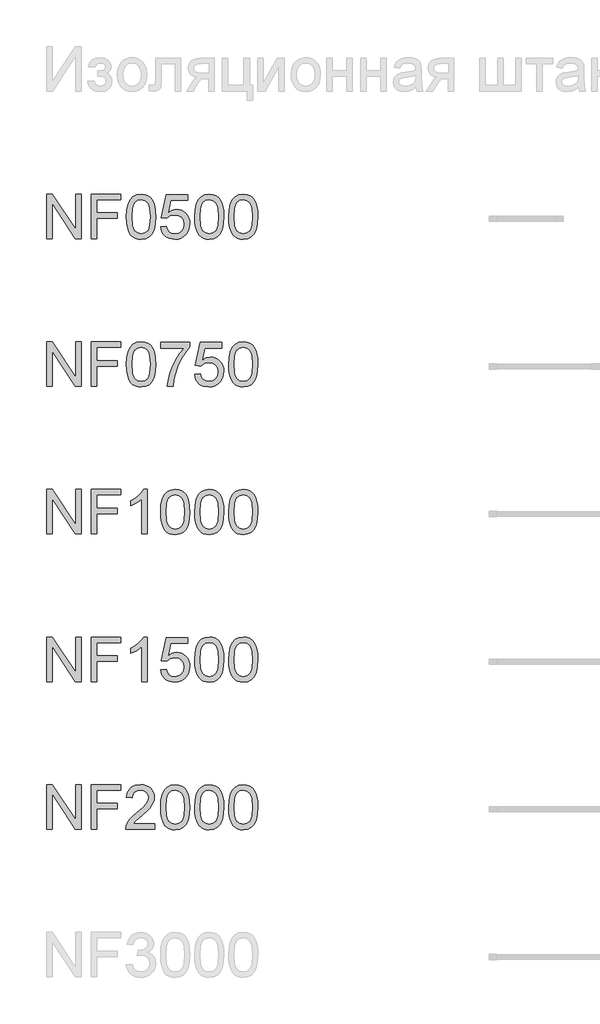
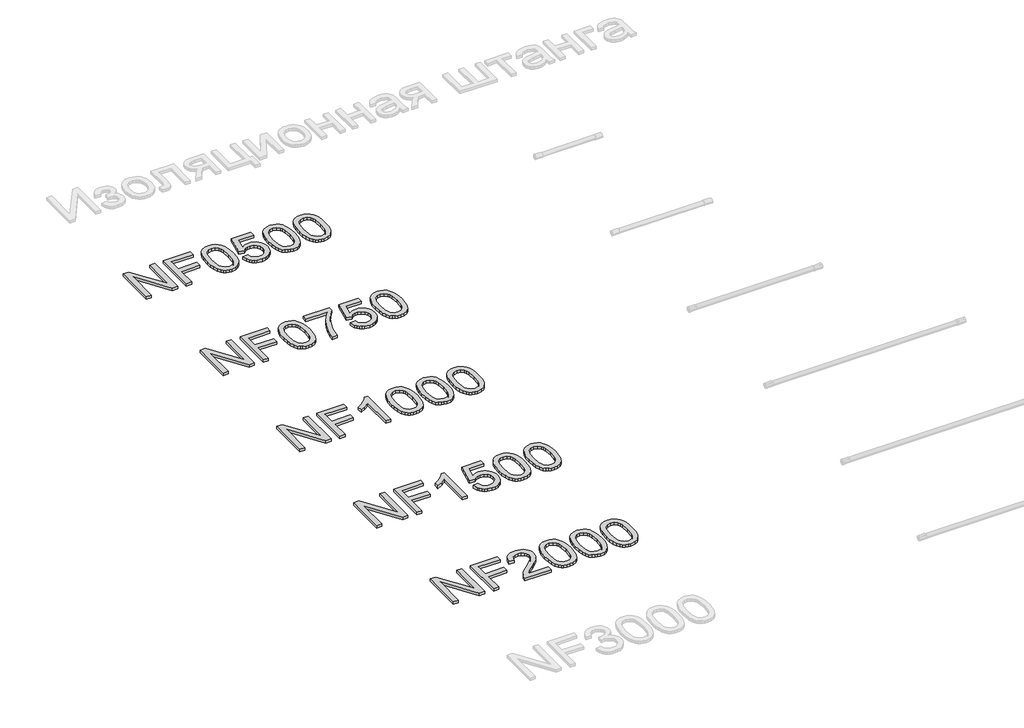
# One storey, part 23 of 124: 5 proxies.
"""IFC4 building model written with IfcOpenShell, lengths in millimetres."""

from ifc_helpers import new_model, si_unit, origin, origin_with_axes, place, context, project, spatial, polyline, outline, extrude, element, save

model = new_model("IFC4")

# Units and contexts
model_context = context("Model", 3, world=origin())
ifc_project = project(units=[si_unit("LENGTHUNIT", "METRE", prefix="MILLI")], contexts=[model_context])

# Site, building, storey
site = spatial("IfcSite", under=ifc_project)
building = spatial("IfcBuilding", under=site)
storey = spatial("IfcBuildingStorey", under=building, Name="Этаж 01", Elevation=0.0)

# Proxies
placement = place(None, origin())
element("IfcBuildingElementProxy", 1, Name="300", ObjectType="300", at=placement, inside=storey, context=model_context, shape_type="SweptSolid", body=[
    extrude(outline(polyline([(25399.8220677, -99548.8731539), (25399.8220677, -99247.5042234), (25440.1419344, -99247.5042234), (25597.5954283, -99486.2596383), (25597.5954283, -99247.5042234), (25635.2665446, -99247.5042234), (25635.2665446, -99548.8731539), (25594.9466779, -99548.8731539), (25437.493184, -99310.0441626), (25437.493184, -99548.8731539), (25399.8220677, -99548.8731539)])), origin_with_axes(), (0.0, 0.0, 1.0), 20.0),
    extrude(outline(polyline([(25701.1909981, -99548.8731539), (25701.1909981, -99247.5042234), (25903.6732483, -99247.5042234), (25903.6732483, -99285.1753397), (25738.8621144, -99285.1753397), (25738.8621144, -99374.644241), (25880.1288006, -99374.644241), (25880.1288006, -99412.3153573), (25738.8621144, -99412.3153573), (25738.8621144, -99548.8731539), (25701.1909981, -99548.8731539)])), origin_with_axes(), (0.0, 0.0, 1.0), 20.0),
    extrude(outline(polyline([(25941.3443646, -99400.6167098), (25944.1126766, -99352.3781832), (25952.4176126, -99313.9069236), (25966.1763993, -99284.6143197), (25985.306263, -99263.9117604), (26009.9451596, -99251.6061077), (26040.2310449, -99247.5042234), (26063.4443988, -99249.9322446), (26084.2297315, -99257.2163081), (26101.6121558, -99269.0713054), (26114.6167843, -99285.2121279), (26124.4392336, -99305.50082), (26132.2751201, -99329.7994258), (26137.4070739, -99360.6555281), (26139.1177252, -99400.6167098), (26136.3770043, -99448.579325), (26128.1548417, -99486.9586141), (26114.4788286, -99516.2788091), (26095.376556, -99537.0641418), (26070.682477, -99549.452568), (26040.2310449, -99553.5820434), (26019.4825004, -99551.7886187), (26001.0884006, -99546.4083445), (25985.0487456, -99537.4412209), (25971.3635354, -99524.8872478), (25958.2301482, -99502.1935272), (25948.8491573, -99473.9171974), (25943.2205628, -99440.0582582), (25941.3443646, -99400.6167098)]), holes=[polyline([(25979.0154809, -99400.5431334), (25983.4300648, -99459.7997258), (25988.9482948, -99480.0677245), (25996.6738167, -99494.0955248), (26016.3922916, -99510.4570765), (26040.2310449, -99515.9109271), (26064.0697982, -99510.4386824), (26083.7882731, -99494.0219484), (26091.513795, -99479.9711555), (26097.032025, -99459.7077553), (26101.4466089, -99400.5431334), (26097.1791778, -99342.6201133), (26091.8448888, -99322.4187932), (26084.3768843, -99308.0575998), (26064.6951976, -99290.8959048), (26039.7895865, -99285.1753397), (26016.2083506, -99290.2153231), (25997.2624279, -99305.3352731), (25989.2793886, -99320.9702579), (25983.5772176, -99342.0498962), (25979.0154809, -99400.5431334)])]), origin_with_axes(), (0.0, 0.0, 1.0), 20.0),
    extrude(outline(polyline([(26172.079952, -99468.8220317), (26209.7510683, -99464.1131422), (26216.6672498, -99486.7286879), (26228.7337792, -99502.9246927), (26245.8954743, -99512.6643685), (26268.0971527, -99515.9109271), (26295.0996912, -99511.3951756), (26315.3332009, -99497.8479212), (26327.9699474, -99476.8326622), (26332.1821963, -99449.9128972), (26328.2366619, -99424.5658277), (26316.4000587, -99405.1784466), (26296.5804162, -99392.8727938), (26268.6857639, -99388.7709096), (26250.4112258, -99390.4079845), (26235.6131725, -99395.3192091), (26214.4599578, -99412.3153573), (26176.7888415, -99407.6064677), (26209.7510683, -99252.213113), (26355.726644, -99252.213113), (26355.726644, -99289.8842293), (26240.2116975, -99289.8842293), (26224.0984661, -99372.8784074), (26251.009034, -99356.5444468), (26279.207189, -99351.0997933), (26297.5530042, -99352.7874519), (26314.4042989, -99357.8504279), (26329.7610729, -99366.2887212), (26343.6233263, -99378.1023317), (26355.0989453, -99392.5692912), (26363.295816, -99408.9676311), (26368.2139384, -99427.2973515), (26369.8533126, -99447.5584524), (26363.9488066, -99485.2295687), (26356.568174, -99502.0233818), (26346.2352885, -99517.4560315), (26330.5819096, -99533.2611617), (26312.3165685, -99544.5505404), (26291.4392653, -99551.3241677), (26267.9499999, -99553.5820434), (26230.9502682, -99547.7787049), (26215.2715975, -99540.5245319), (26201.4737234, -99530.3686895), (26189.9935059, -99517.8170157), (26181.2678048, -99503.3753481), (26172.079952, -99468.8220317)])), origin_with_axes(), (0.0, 0.0, 1.0), 20.0),
    extrude(outline(polyline([(26402.8155393, -99400.6167098), (26405.5838514, -99352.3781832), (26413.8887874, -99313.9069236), (26427.647574, -99284.6143197), (26446.7774378, -99263.9117604), (26471.4163344, -99251.6061077), (26501.7022196, -99247.5042234), (26524.9155735, -99249.9322446), (26545.7009063, -99257.2163081), (26563.0833305, -99269.0713054), (26576.0879591, -99285.2121279), (26585.9104083, -99305.50082), (26593.7462948, -99329.7994258), (26598.8782487, -99360.6555281), (26600.5889, -99400.6167098), (26597.8481791, -99448.579325), (26589.6260165, -99486.9586141), (26575.9500033, -99516.2788091), (26556.8477307, -99537.0641418), (26532.1536518, -99549.452568), (26501.7022196, -99553.5820434), (26480.9536751, -99551.7886187), (26462.5595754, -99546.4083445), (26446.5199204, -99537.4412209), (26432.8347102, -99524.8872478), (26419.7013229, -99502.1935272), (26410.320332, -99473.9171974), (26404.6917375, -99440.0582582), (26402.8155393, -99400.6167098)]), holes=[polyline([(26440.4866556, -99400.5431334), (26444.9012396, -99459.7997258), (26450.4194695, -99480.0677245), (26458.1449914, -99494.0955248), (26477.8634664, -99510.4570765), (26501.7022196, -99515.9109271), (26525.5409729, -99510.4386824), (26545.2594479, -99494.0219484), (26552.9849698, -99479.9711555), (26558.5031997, -99459.7077553), (26562.9177836, -99400.5431334), (26558.6503525, -99342.6201133), (26553.3160636, -99322.4187932), (26545.8480591, -99308.0575998), (26526.1663723, -99290.8959048), (26501.2607613, -99285.1753397), (26477.6795254, -99290.2153231), (26458.7336026, -99305.3352731), (26450.7505633, -99320.9702579), (26445.0483924, -99342.0498962), (26440.4866556, -99400.5431334)])]), origin_with_axes(), (0.0, 0.0, 1.0), 20.0),
    extrude(outline(polyline([(26633.5511267, -99400.6167098), (26636.3194387, -99352.3781832), (26644.6243748, -99313.9069236), (26658.3831614, -99284.6143197), (26677.5130251, -99263.9117604), (26702.1519218, -99251.6061077), (26732.437807, -99247.5042234), (26755.6511609, -99249.9322446), (26776.4364936, -99257.2163081), (26793.8189179, -99269.0713054), (26806.8235464, -99285.2121279), (26816.6459957, -99305.50082), (26824.4818822, -99329.7994258), (26829.613836, -99360.6555281), (26831.3244873, -99400.6167098), (26828.5837665, -99448.579325), (26820.3616039, -99486.9586141), (26806.6855907, -99516.2788091), (26787.5833181, -99537.0641418), (26762.8892392, -99549.452568), (26732.437807, -99553.5820434), (26711.6892625, -99551.7886187), (26693.2951627, -99546.4083445), (26677.2555077, -99537.4412209), (26663.5702975, -99524.8872478), (26650.4369103, -99502.1935272), (26641.0559194, -99473.9171974), (26635.4273249, -99440.0582582), (26633.5511267, -99400.6167098)]), holes=[polyline([(26671.222243, -99400.5431334), (26675.636827, -99459.7997258), (26681.1550569, -99480.0677245), (26688.8805788, -99494.0955248), (26708.5990537, -99510.4570765), (26732.437807, -99515.9109271), (26756.2765603, -99510.4386824), (26775.9950353, -99494.0219484), (26783.7205571, -99479.9711555), (26789.2387871, -99459.7077553), (26793.653371, -99400.5431334), (26789.3859399, -99342.6201133), (26784.0516509, -99322.4187932), (26776.5836464, -99308.0575998), (26756.9019597, -99290.8959048), (26731.9963486, -99285.1753397), (26708.4151127, -99290.2153231), (26689.46919, -99305.3352731), (26681.4861507, -99320.9702579), (26675.7839798, -99342.0498962), (26671.222243, -99400.5431334)])]), origin_with_axes(), (0.0, 0.0, 1.0), 20.0),
])
element("IfcBuildingElementProxy", 2, Name="300", ObjectType="300", at=placement, inside=storey, context=model_context, shape_type="SweptSolid", body=[
    extrude(outline(polyline([(25399.8220677, -100548.8731539), (25399.8220677, -100247.5042234), (25440.1419344, -100247.5042234), (25597.5954283, -100486.2596383), (25597.5954283, -100247.5042234), (25635.2665446, -100247.5042234), (25635.2665446, -100548.8731539), (25594.9466779, -100548.8731539), (25437.493184, -100310.0441626), (25437.493184, -100548.8731539), (25399.8220677, -100548.8731539)])), origin_with_axes(), (0.0, 0.0, 1.0), 20.0),
    extrude(outline(polyline([(25701.1909981, -100548.8731539), (25701.1909981, -100247.5042234), (25903.6732483, -100247.5042234), (25903.6732483, -100285.1753397), (25738.8621144, -100285.1753397), (25738.8621144, -100374.644241), (25880.1288006, -100374.644241), (25880.1288006, -100412.3153573), (25738.8621144, -100412.3153573), (25738.8621144, -100548.8731539), (25701.1909981, -100548.8731539)])), origin_with_axes(), (0.0, 0.0, 1.0), 20.0),
    extrude(outline(polyline([(25941.3443646, -100400.6167098), (25944.1126766, -100352.3781832), (25952.4176126, -100313.9069236), (25966.1763993, -100284.6143197), (25985.306263, -100263.9117604), (26009.9451596, -100251.6061077), (26040.2310449, -100247.5042234), (26063.4443988, -100249.9322446), (26084.2297315, -100257.2163081), (26101.6121558, -100269.0713054), (26114.6167843, -100285.2121279), (26124.4392336, -100305.50082), (26132.2751201, -100329.7994258), (26137.4070739, -100360.6555281), (26139.1177252, -100400.6167098), (26136.3770043, -100448.579325), (26128.1548417, -100486.9586141), (26114.4788286, -100516.2788091), (26095.376556, -100537.0641418), (26070.682477, -100549.452568), (26040.2310449, -100553.5820434), (26019.4825004, -100551.7886187), (26001.0884006, -100546.4083445), (25985.0487456, -100537.4412209), (25971.3635354, -100524.8872478), (25958.2301482, -100502.1935272), (25948.8491573, -100473.9171974), (25943.2205628, -100440.0582582), (25941.3443646, -100400.6167098)]), holes=[polyline([(25979.0154809, -100400.5431334), (25983.4300648, -100459.7997258), (25988.9482948, -100480.0677245), (25996.6738167, -100494.0955248), (26016.3922916, -100510.4570765), (26040.2310449, -100515.9109271), (26064.0697982, -100510.4386824), (26083.7882731, -100494.0219484), (26091.513795, -100479.9711555), (26097.032025, -100459.7077553), (26101.4466089, -100400.5431334), (26097.1791778, -100342.6201133), (26091.8448888, -100322.4187932), (26084.3768843, -100308.0575998), (26064.6951976, -100290.8959048), (26039.7895865, -100285.1753397), (26016.2083506, -100290.2153231), (25997.2624279, -100305.3352731), (25989.2793886, -100320.9702579), (25983.5772176, -100342.0498962), (25979.0154809, -100400.5431334)])]), origin_with_axes(), (0.0, 0.0, 1.0), 20.0),
    extrude(outline(polyline([(26172.079952, -100289.8842293), (26172.079952, -100252.213113), (26369.8533126, -100252.213113), (26369.8533126, -100282.6737422), (26341.6643547, -100318.3490987), (26313.7513083, -100363.7181457), (26289.1308058, -100414.6422109), (26270.8194795, -100466.9826218), (26261.8431588, -100506.1436601), (26256.8399637, -100548.8731539), (26219.1688474, -100548.8731539), (26223.2431404, -100510.0432093), (26234.1416446, -100463.892413), (26251.5700541, -100414.9733047), (26275.2340634, -100367.8384241), (26302.8620013, -100325.228492), (26332.1821963, -100289.8842293), (26172.079952, -100289.8842293)])), origin_with_axes(), (0.0, 0.0, 1.0), 20.0),
    extrude(outline(polyline([(26402.8155393, -100468.8220317), (26440.4866556, -100464.1131422), (26447.4028372, -100486.7286879), (26459.4693666, -100502.9246927), (26476.6310617, -100512.6643685), (26498.8327401, -100515.9109271), (26525.8352785, -100511.3951756), (26546.0687883, -100497.8479212), (26558.7055348, -100476.8326622), (26562.9177836, -100449.9128972), (26558.9722492, -100424.5658277), (26547.1356461, -100405.1784466), (26527.3160036, -100392.8727938), (26499.4213513, -100388.7709096), (26481.1468132, -100390.4079845), (26466.3487599, -100395.3192091), (26445.1955452, -100412.3153573), (26407.5244289, -100407.6064677), (26440.4866556, -100252.213113), (26586.4622313, -100252.213113), (26586.4622313, -100289.8842293), (26470.9472849, -100289.8842293), (26454.8340535, -100372.8784074), (26481.7446214, -100356.5444468), (26509.9427763, -100351.0997933), (26528.2885916, -100352.7874519), (26545.1398862, -100357.8504279), (26560.4966603, -100366.2887212), (26574.3589137, -100378.1023317), (26585.8345327, -100392.5692912), (26594.0314034, -100408.9676311), (26598.9495258, -100427.2973515), (26600.5889, -100447.5584524), (26594.6843939, -100485.2295687), (26587.3037614, -100502.0233818), (26576.9708759, -100517.4560315), (26561.317497, -100533.2611617), (26543.0521559, -100544.5505404), (26522.1748527, -100551.3241677), (26498.6855873, -100553.5820434), (26461.6858556, -100547.7787049), (26446.0071848, -100540.5245319), (26432.2093108, -100530.3686895), (26420.7290932, -100517.8170157), (26412.0033922, -100503.3753481), (26402.8155393, -100468.8220317)])), origin_with_axes(), (0.0, 0.0, 1.0), 20.0),
    extrude(outline(polyline([(26633.5511267, -100400.6167098), (26636.3194387, -100352.3781832), (26644.6243748, -100313.9069236), (26658.3831614, -100284.6143197), (26677.5130251, -100263.9117604), (26702.1519218, -100251.6061077), (26732.437807, -100247.5042234), (26755.6511609, -100249.9322446), (26776.4364936, -100257.2163081), (26793.8189179, -100269.0713054), (26806.8235464, -100285.2121279), (26816.6459957, -100305.50082), (26824.4818822, -100329.7994258), (26829.613836, -100360.6555281), (26831.3244873, -100400.6167098), (26828.5837665, -100448.579325), (26820.3616039, -100486.9586141), (26806.6855907, -100516.2788091), (26787.5833181, -100537.0641418), (26762.8892392, -100549.452568), (26732.437807, -100553.5820434), (26711.6892625, -100551.7886187), (26693.2951627, -100546.4083445), (26677.2555077, -100537.4412209), (26663.5702975, -100524.8872478), (26650.4369103, -100502.1935272), (26641.0559194, -100473.9171974), (26635.4273249, -100440.0582582), (26633.5511267, -100400.6167098)]), holes=[polyline([(26671.222243, -100400.5431334), (26675.636827, -100459.7997258), (26681.1550569, -100480.0677245), (26688.8805788, -100494.0955248), (26708.5990537, -100510.4570765), (26732.437807, -100515.9109271), (26756.2765603, -100510.4386824), (26775.9950353, -100494.0219484), (26783.7205571, -100479.9711555), (26789.2387871, -100459.7077553), (26793.653371, -100400.5431334), (26789.3859399, -100342.6201133), (26784.0516509, -100322.4187932), (26776.5836464, -100308.0575998), (26756.9019597, -100290.8959048), (26731.9963486, -100285.1753397), (26708.4151127, -100290.2153231), (26689.46919, -100305.3352731), (26681.4861507, -100320.9702579), (26675.7839798, -100342.0498962), (26671.222243, -100400.5431334)])]), origin_with_axes(), (0.0, 0.0, 1.0), 20.0),
])
element("IfcBuildingElementProxy", 3, Name="300", ObjectType="300", at=placement, inside=storey, context=model_context, shape_type="SweptSolid", body=[
    extrude(outline(polyline([(25399.8220677, -101548.8731539), (25399.8220677, -101247.5042234), (25440.1419344, -101247.5042234), (25597.5954283, -101486.2596383), (25597.5954283, -101247.5042234), (25635.2665446, -101247.5042234), (25635.2665446, -101548.8731539), (25594.9466779, -101548.8731539), (25437.493184, -101310.0441626), (25437.493184, -101548.8731539), (25399.8220677, -101548.8731539)])), origin_with_axes(), (0.0, 0.0, 1.0), 20.0),
    extrude(outline(polyline([(25701.1909981, -101548.8731539), (25701.1909981, -101247.5042234), (25903.6732483, -101247.5042234), (25903.6732483, -101285.1753397), (25738.8621144, -101285.1753397), (25738.8621144, -101374.644241), (25880.1288006, -101374.644241), (25880.1288006, -101412.3153573), (25738.8621144, -101412.3153573), (25738.8621144, -101548.8731539), (25701.1909981, -101548.8731539)])), origin_with_axes(), (0.0, 0.0, 1.0), 20.0),
    extrude(outline(polyline([(26082.6110507, -101548.8731539), (26044.9399344, -101548.8731539), (26044.9399344, -101314.0172882), (26009.2553809, -101339.437934), (25969.5977018, -101358.4574332), (25969.5977018, -101322.846456), (25999.1846113, -101306.7516188), (26024.8167893, -101287.6033609), (26045.0227079, -101267.2410925), (26058.3308391, -101247.5042234), (26082.6110507, -101247.5042234), (26082.6110507, -101548.8731539)])), origin_with_axes(), (0.0, 0.0, 1.0), 20.0),
    extrude(outline(polyline([(26172.079952, -101400.6167098), (26174.848264, -101352.3781832), (26183.1532, -101313.9069236), (26196.9119866, -101284.6143197), (26216.0418504, -101263.9117604), (26240.680747, -101251.6061077), (26270.9666323, -101247.5042234), (26294.1799862, -101249.9322446), (26314.9653189, -101257.2163081), (26332.3477432, -101269.0713054), (26345.3523717, -101285.2121279), (26355.174821, -101305.50082), (26363.0107075, -101329.7994258), (26368.1426613, -101360.6555281), (26369.8533126, -101400.6167098), (26367.1125917, -101448.579325), (26358.8904291, -101486.9586141), (26345.2144159, -101516.2788091), (26326.1121433, -101537.0641418), (26301.4180644, -101549.452568), (26270.9666323, -101553.5820434), (26250.2180877, -101551.7886187), (26231.823988, -101546.4083445), (26215.784333, -101537.4412209), (26202.0991228, -101524.8872478), (26188.9657355, -101502.1935272), (26179.5847447, -101473.9171974), (26173.9561501, -101440.0582582), (26172.079952, -101400.6167098)]), holes=[polyline([(26209.7510683, -101400.5431334), (26214.1656522, -101459.7997258), (26219.6838821, -101480.0677245), (26227.409404, -101494.0955248), (26247.127879, -101510.4570765), (26270.9666323, -101515.9109271), (26294.8053856, -101510.4386824), (26314.5238605, -101494.0219484), (26322.2493824, -101479.9711555), (26327.7676123, -101459.7077553), (26332.1821963, -101400.5431334), (26327.9147651, -101342.6201133), (26322.5804762, -101322.4187932), (26315.1124717, -101308.0575998), (26295.430785, -101290.8959048), (26270.5251739, -101285.1753397), (26246.943938, -101290.2153231), (26227.9980152, -101305.3352731), (26220.0149759, -101320.9702579), (26214.312805, -101342.0498962), (26209.7510683, -101400.5431334)])]), origin_with_axes(), (0.0, 0.0, 1.0), 20.0),
    extrude(outline(polyline([(26402.8155393, -101400.6167098), (26405.5838514, -101352.3781832), (26413.8887874, -101313.9069236), (26427.647574, -101284.6143197), (26446.7774378, -101263.9117604), (26471.4163344, -101251.6061077), (26501.7022196, -101247.5042234), (26524.9155735, -101249.9322446), (26545.7009063, -101257.2163081), (26563.0833305, -101269.0713054), (26576.0879591, -101285.2121279), (26585.9104083, -101305.50082), (26593.7462948, -101329.7994258), (26598.8782487, -101360.6555281), (26600.5889, -101400.6167098), (26597.8481791, -101448.579325), (26589.6260165, -101486.9586141), (26575.9500033, -101516.2788091), (26556.8477307, -101537.0641418), (26532.1536518, -101549.452568), (26501.7022196, -101553.5820434), (26480.9536751, -101551.7886187), (26462.5595754, -101546.4083445), (26446.5199204, -101537.4412209), (26432.8347102, -101524.8872478), (26419.7013229, -101502.1935272), (26410.320332, -101473.9171974), (26404.6917375, -101440.0582582), (26402.8155393, -101400.6167098)]), holes=[polyline([(26440.4866556, -101400.5431334), (26444.9012396, -101459.7997258), (26450.4194695, -101480.0677245), (26458.1449914, -101494.0955248), (26477.8634664, -101510.4570765), (26501.7022196, -101515.9109271), (26525.5409729, -101510.4386824), (26545.2594479, -101494.0219484), (26552.9849698, -101479.9711555), (26558.5031997, -101459.7077553), (26562.9177836, -101400.5431334), (26558.6503525, -101342.6201133), (26553.3160636, -101322.4187932), (26545.8480591, -101308.0575998), (26526.1663723, -101290.8959048), (26501.2607613, -101285.1753397), (26477.6795254, -101290.2153231), (26458.7336026, -101305.3352731), (26450.7505633, -101320.9702579), (26445.0483924, -101342.0498962), (26440.4866556, -101400.5431334)])]), origin_with_axes(), (0.0, 0.0, 1.0), 20.0),
    extrude(outline(polyline([(26633.5511267, -101400.6167098), (26636.3194387, -101352.3781832), (26644.6243748, -101313.9069236), (26658.3831614, -101284.6143197), (26677.5130251, -101263.9117604), (26702.1519218, -101251.6061077), (26732.437807, -101247.5042234), (26755.6511609, -101249.9322446), (26776.4364936, -101257.2163081), (26793.8189179, -101269.0713054), (26806.8235464, -101285.2121279), (26816.6459957, -101305.50082), (26824.4818822, -101329.7994258), (26829.613836, -101360.6555281), (26831.3244873, -101400.6167098), (26828.5837665, -101448.579325), (26820.3616039, -101486.9586141), (26806.6855907, -101516.2788091), (26787.5833181, -101537.0641418), (26762.8892392, -101549.452568), (26732.437807, -101553.5820434), (26711.6892625, -101551.7886187), (26693.2951627, -101546.4083445), (26677.2555077, -101537.4412209), (26663.5702975, -101524.8872478), (26650.4369103, -101502.1935272), (26641.0559194, -101473.9171974), (26635.4273249, -101440.0582582), (26633.5511267, -101400.6167098)]), holes=[polyline([(26671.222243, -101400.5431334), (26675.636827, -101459.7997258), (26681.1550569, -101480.0677245), (26688.8805788, -101494.0955248), (26708.5990537, -101510.4570765), (26732.437807, -101515.9109271), (26756.2765603, -101510.4386824), (26775.9950353, -101494.0219484), (26783.7205571, -101479.9711555), (26789.2387871, -101459.7077553), (26793.653371, -101400.5431334), (26789.3859399, -101342.6201133), (26784.0516509, -101322.4187932), (26776.5836464, -101308.0575998), (26756.9019597, -101290.8959048), (26731.9963486, -101285.1753397), (26708.4151127, -101290.2153231), (26689.46919, -101305.3352731), (26681.4861507, -101320.9702579), (26675.7839798, -101342.0498962), (26671.222243, -101400.5431334)])]), origin_with_axes(), (0.0, 0.0, 1.0), 20.0),
])
element("IfcBuildingElementProxy", 4, Name="300", ObjectType="300", at=placement, inside=storey, context=model_context, shape_type="SweptSolid", body=[
    extrude(outline(polyline([(25399.8220677, -102548.8731539), (25399.8220677, -102247.5042234), (25440.1419344, -102247.5042234), (25597.5954283, -102486.2596383), (25597.5954283, -102247.5042234), (25635.2665446, -102247.5042234), (25635.2665446, -102548.8731539), (25594.9466779, -102548.8731539), (25437.493184, -102310.0441626), (25437.493184, -102548.8731539), (25399.8220677, -102548.8731539)])), origin_with_axes(), (0.0, 0.0, 1.0), 20.0),
    extrude(outline(polyline([(25701.1909981, -102548.8731539), (25701.1909981, -102247.5042234), (25903.6732483, -102247.5042234), (25903.6732483, -102285.1753397), (25738.8621144, -102285.1753397), (25738.8621144, -102374.644241), (25880.1288006, -102374.644241), (25880.1288006, -102412.3153573), (25738.8621144, -102412.3153573), (25738.8621144, -102548.8731539), (25701.1909981, -102548.8731539)])), origin_with_axes(), (0.0, 0.0, 1.0), 20.0),
    extrude(outline(polyline([(26082.6110507, -102548.8731539), (26044.9399344, -102548.8731539), (26044.9399344, -102314.0172882), (26009.2553809, -102339.437934), (25969.5977018, -102358.4574332), (25969.5977018, -102322.846456), (25999.1846113, -102306.7516188), (26024.8167893, -102287.6033609), (26045.0227079, -102267.2410925), (26058.3308391, -102247.5042234), (26082.6110507, -102247.5042234), (26082.6110507, -102548.8731539)])), origin_with_axes(), (0.0, 0.0, 1.0), 20.0),
    extrude(outline(polyline([(26172.079952, -102468.8220317), (26209.7510683, -102464.1131422), (26216.6672498, -102486.7286879), (26228.7337792, -102502.9246927), (26245.8954743, -102512.6643685), (26268.0971527, -102515.9109271), (26295.0996912, -102511.3951756), (26315.3332009, -102497.8479212), (26327.9699474, -102476.8326622), (26332.1821963, -102449.9128972), (26328.2366619, -102424.5658277), (26316.4000587, -102405.1784466), (26296.5804162, -102392.8727938), (26268.6857639, -102388.7709096), (26250.4112258, -102390.4079845), (26235.6131725, -102395.3192091), (26214.4599578, -102412.3153573), (26176.7888415, -102407.6064677), (26209.7510683, -102252.213113), (26355.726644, -102252.213113), (26355.726644, -102289.8842293), (26240.2116975, -102289.8842293), (26224.0984661, -102372.8784074), (26251.009034, -102356.5444468), (26279.207189, -102351.0997933), (26297.5530042, -102352.7874519), (26314.4042989, -102357.8504279), (26329.7610729, -102366.2887212), (26343.6233263, -102378.1023317), (26355.0989453, -102392.5692912), (26363.295816, -102408.9676311), (26368.2139384, -102427.2973515), (26369.8533126, -102447.5584524), (26363.9488066, -102485.2295687), (26356.568174, -102502.0233818), (26346.2352885, -102517.4560315), (26330.5819096, -102533.2611617), (26312.3165685, -102544.5505404), (26291.4392653, -102551.3241677), (26267.9499999, -102553.5820434), (26230.9502682, -102547.7787049), (26215.2715975, -102540.5245319), (26201.4737234, -102530.3686895), (26189.9935059, -102517.8170157), (26181.2678048, -102503.3753481), (26172.079952, -102468.8220317)])), origin_with_axes(), (0.0, 0.0, 1.0), 20.0),
    extrude(outline(polyline([(26402.8155393, -102400.6167098), (26405.5838514, -102352.3781832), (26413.8887874, -102313.9069236), (26427.647574, -102284.6143197), (26446.7774378, -102263.9117604), (26471.4163344, -102251.6061077), (26501.7022196, -102247.5042234), (26524.9155735, -102249.9322446), (26545.7009063, -102257.2163081), (26563.0833305, -102269.0713054), (26576.0879591, -102285.2121279), (26585.9104083, -102305.50082), (26593.7462948, -102329.7994258), (26598.8782487, -102360.6555281), (26600.5889, -102400.6167098), (26597.8481791, -102448.579325), (26589.6260165, -102486.9586141), (26575.9500033, -102516.2788091), (26556.8477307, -102537.0641418), (26532.1536518, -102549.452568), (26501.7022196, -102553.5820434), (26480.9536751, -102551.7886187), (26462.5595754, -102546.4083445), (26446.5199204, -102537.4412209), (26432.8347102, -102524.8872478), (26419.7013229, -102502.1935272), (26410.320332, -102473.9171974), (26404.6917375, -102440.0582582), (26402.8155393, -102400.6167098)]), holes=[polyline([(26440.4866556, -102400.5431334), (26444.9012396, -102459.7997258), (26450.4194695, -102480.0677245), (26458.1449914, -102494.0955248), (26477.8634664, -102510.4570765), (26501.7022196, -102515.9109271), (26525.5409729, -102510.4386824), (26545.2594479, -102494.0219484), (26552.9849698, -102479.9711555), (26558.5031997, -102459.7077553), (26562.9177836, -102400.5431334), (26558.6503525, -102342.6201133), (26553.3160636, -102322.4187932), (26545.8480591, -102308.0575998), (26526.1663723, -102290.8959048), (26501.2607613, -102285.1753397), (26477.6795254, -102290.2153231), (26458.7336026, -102305.3352731), (26450.7505633, -102320.9702579), (26445.0483924, -102342.0498962), (26440.4866556, -102400.5431334)])]), origin_with_axes(), (0.0, 0.0, 1.0), 20.0),
    extrude(outline(polyline([(26633.5511267, -102400.6167098), (26636.3194387, -102352.3781832), (26644.6243748, -102313.9069236), (26658.3831614, -102284.6143197), (26677.5130251, -102263.9117604), (26702.1519218, -102251.6061077), (26732.437807, -102247.5042234), (26755.6511609, -102249.9322446), (26776.4364936, -102257.2163081), (26793.8189179, -102269.0713054), (26806.8235464, -102285.2121279), (26816.6459957, -102305.50082), (26824.4818822, -102329.7994258), (26829.613836, -102360.6555281), (26831.3244873, -102400.6167098), (26828.5837665, -102448.579325), (26820.3616039, -102486.9586141), (26806.6855907, -102516.2788091), (26787.5833181, -102537.0641418), (26762.8892392, -102549.452568), (26732.437807, -102553.5820434), (26711.6892625, -102551.7886187), (26693.2951627, -102546.4083445), (26677.2555077, -102537.4412209), (26663.5702975, -102524.8872478), (26650.4369103, -102502.1935272), (26641.0559194, -102473.9171974), (26635.4273249, -102440.0582582), (26633.5511267, -102400.6167098)]), holes=[polyline([(26671.222243, -102400.5431334), (26675.636827, -102459.7997258), (26681.1550569, -102480.0677245), (26688.8805788, -102494.0955248), (26708.5990537, -102510.4570765), (26732.437807, -102515.9109271), (26756.2765603, -102510.4386824), (26775.9950353, -102494.0219484), (26783.7205571, -102479.9711555), (26789.2387871, -102459.7077553), (26793.653371, -102400.5431334), (26789.3859399, -102342.6201133), (26784.0516509, -102322.4187932), (26776.5836464, -102308.0575998), (26756.9019597, -102290.8959048), (26731.9963486, -102285.1753397), (26708.4151127, -102290.2153231), (26689.46919, -102305.3352731), (26681.4861507, -102320.9702579), (26675.7839798, -102342.0498962), (26671.222243, -102400.5431334)])]), origin_with_axes(), (0.0, 0.0, 1.0), 20.0),
])
element("IfcBuildingElementProxy", 5, Name="300", ObjectType="300", at=placement, inside=storey, context=model_context, shape_type="SweptSolid", body=[
    extrude(outline(polyline([(25399.8220677, -103548.8731539), (25399.8220677, -103247.5042234), (25440.1419344, -103247.5042234), (25597.5954283, -103486.2596383), (25597.5954283, -103247.5042234), (25635.2665446, -103247.5042234), (25635.2665446, -103548.8731539), (25594.9466779, -103548.8731539), (25437.493184, -103310.0441626), (25437.493184, -103548.8731539), (25399.8220677, -103548.8731539)])), origin_with_axes(), (0.0, 0.0, 1.0), 20.0),
    extrude(outline(polyline([(25701.1909981, -103548.8731539), (25701.1909981, -103247.5042234), (25903.6732483, -103247.5042234), (25903.6732483, -103285.1753397), (25738.8621144, -103285.1753397), (25738.8621144, -103374.644241), (25880.1288006, -103374.644241), (25880.1288006, -103412.3153573), (25738.8621144, -103412.3153573), (25738.8621144, -103548.8731539), (25701.1909981, -103548.8731539)])), origin_with_axes(), (0.0, 0.0, 1.0), 20.0),
    extrude(outline(polyline([(26134.4088357, -103511.2020376), (26134.4088357, -103548.8731539), (25936.6354751, -103548.8731539), (25940.682177, -103522.900685), (25949.9711974, -103502.6027959), (25963.5644371, -103482.9119122), (25983.2277297, -103462.3013234), (26010.7269089, -103439.2443193), (26051.3778694, -103403.1367015), (26075.7684456, -103376.4836509), (26087.9637338, -103354.8521896), (26092.0288298, -103333.8093395), (26088.19366, -103314.9461902), (26076.6881506, -103299.2652202), (26059.0022237, -103288.6978098), (26036.6258013, -103285.1753397), (26013.1273389, -103288.6150364), (25994.8711949, -103298.9341264), (25983.089774, -103315.3232692), (25979.0154809, -103336.9731247), (25941.3443646, -103332.2642351), (25950.4770351, -103295.8255235), (25959.0233937, -103281.2895862), (25970.2231012, -103269.2092612), (25983.8186402, -103259.7133072), (25999.5524933, -103252.9304829), (26037.4351417, -103247.5042234), (26057.6249655, -103249.0125396), (26075.5937017, -103253.5374882), (26091.3413503, -103261.0790691), (26104.8679115, -103271.6372823), (26115.7319266, -103284.4303787), (26123.4919375, -103298.676609), (26128.147944, -103314.3759731), (26129.6999461, -103331.5284711), (26128.026083, -103349.5454918), (26123.0044938, -103367.2498129), (26114.0925525, -103385.2576365), (26100.7476331, -103404.1851652), (26079.4748567, -103426.7823167), (26046.7793444, -103455.7990091), (26003.4428454, -103492.0353856), (25986.4466972, -103511.2020376), (26134.4088357, -103511.2020376)])), origin_with_axes(), (0.0, 0.0, 1.0), 20.0),
    extrude(outline(polyline([(26172.079952, -103400.6167098), (26174.848264, -103352.3781832), (26183.1532, -103313.9069236), (26196.9119866, -103284.6143197), (26216.0418504, -103263.9117604), (26240.680747, -103251.6061077), (26270.9666323, -103247.5042234), (26294.1799862, -103249.9322446), (26314.9653189, -103257.2163081), (26332.3477432, -103269.0713054), (26345.3523717, -103285.2121279), (26355.174821, -103305.50082), (26363.0107075, -103329.7994258), (26368.1426613, -103360.6555281), (26369.8533126, -103400.6167098), (26367.1125917, -103448.579325), (26358.8904291, -103486.9586141), (26345.2144159, -103516.2788091), (26326.1121433, -103537.0641418), (26301.4180644, -103549.452568), (26270.9666323, -103553.5820434), (26250.2180877, -103551.7886187), (26231.823988, -103546.4083445), (26215.784333, -103537.4412209), (26202.0991228, -103524.8872478), (26188.9657355, -103502.1935272), (26179.5847447, -103473.9171974), (26173.9561501, -103440.0582582), (26172.079952, -103400.6167098)]), holes=[polyline([(26209.7510683, -103400.5431334), (26214.1656522, -103459.7997258), (26219.6838821, -103480.0677245), (26227.409404, -103494.0955248), (26247.127879, -103510.4570765), (26270.9666323, -103515.9109271), (26294.8053856, -103510.4386824), (26314.5238605, -103494.0219484), (26322.2493824, -103479.9711555), (26327.7676123, -103459.7077553), (26332.1821963, -103400.5431334), (26327.9147651, -103342.6201133), (26322.5804762, -103322.4187932), (26315.1124717, -103308.0575998), (26295.430785, -103290.8959048), (26270.5251739, -103285.1753397), (26246.943938, -103290.2153231), (26227.9980152, -103305.3352731), (26220.0149759, -103320.9702579), (26214.312805, -103342.0498962), (26209.7510683, -103400.5431334)])]), origin_with_axes(), (0.0, 0.0, 1.0), 20.0),
    extrude(outline(polyline([(26402.8155393, -103400.6167098), (26405.5838514, -103352.3781832), (26413.8887874, -103313.9069236), (26427.647574, -103284.6143197), (26446.7774378, -103263.9117604), (26471.4163344, -103251.6061077), (26501.7022196, -103247.5042234), (26524.9155735, -103249.9322446), (26545.7009063, -103257.2163081), (26563.0833305, -103269.0713054), (26576.0879591, -103285.2121279), (26585.9104083, -103305.50082), (26593.7462948, -103329.7994258), (26598.8782487, -103360.6555281), (26600.5889, -103400.6167098), (26597.8481791, -103448.579325), (26589.6260165, -103486.9586141), (26575.9500033, -103516.2788091), (26556.8477307, -103537.0641418), (26532.1536518, -103549.452568), (26501.7022196, -103553.5820434), (26480.9536751, -103551.7886187), (26462.5595754, -103546.4083445), (26446.5199204, -103537.4412209), (26432.8347102, -103524.8872478), (26419.7013229, -103502.1935272), (26410.320332, -103473.9171974), (26404.6917375, -103440.0582582), (26402.8155393, -103400.6167098)]), holes=[polyline([(26440.4866556, -103400.5431334), (26444.9012396, -103459.7997258), (26450.4194695, -103480.0677245), (26458.1449914, -103494.0955248), (26477.8634664, -103510.4570765), (26501.7022196, -103515.9109271), (26525.5409729, -103510.4386824), (26545.2594479, -103494.0219484), (26552.9849698, -103479.9711555), (26558.5031997, -103459.7077553), (26562.9177836, -103400.5431334), (26558.6503525, -103342.6201133), (26553.3160636, -103322.4187932), (26545.8480591, -103308.0575998), (26526.1663723, -103290.8959048), (26501.2607613, -103285.1753397), (26477.6795254, -103290.2153231), (26458.7336026, -103305.3352731), (26450.7505633, -103320.9702579), (26445.0483924, -103342.0498962), (26440.4866556, -103400.5431334)])]), origin_with_axes(), (0.0, 0.0, 1.0), 20.0),
    extrude(outline(polyline([(26633.5511267, -103400.6167098), (26636.3194387, -103352.3781832), (26644.6243748, -103313.9069236), (26658.3831614, -103284.6143197), (26677.5130251, -103263.9117604), (26702.1519218, -103251.6061077), (26732.437807, -103247.5042234), (26755.6511609, -103249.9322446), (26776.4364936, -103257.2163081), (26793.8189179, -103269.0713054), (26806.8235464, -103285.2121279), (26816.6459957, -103305.50082), (26824.4818822, -103329.7994258), (26829.613836, -103360.6555281), (26831.3244873, -103400.6167098), (26828.5837665, -103448.579325), (26820.3616039, -103486.9586141), (26806.6855907, -103516.2788091), (26787.5833181, -103537.0641418), (26762.8892392, -103549.452568), (26732.437807, -103553.5820434), (26711.6892625, -103551.7886187), (26693.2951627, -103546.4083445), (26677.2555077, -103537.4412209), (26663.5702975, -103524.8872478), (26650.4369103, -103502.1935272), (26641.0559194, -103473.9171974), (26635.4273249, -103440.0582582), (26633.5511267, -103400.6167098)]), holes=[polyline([(26671.222243, -103400.5431334), (26675.636827, -103459.7997258), (26681.1550569, -103480.0677245), (26688.8805788, -103494.0955248), (26708.5990537, -103510.4570765), (26732.437807, -103515.9109271), (26756.2765603, -103510.4386824), (26775.9950353, -103494.0219484), (26783.7205571, -103479.9711555), (26789.2387871, -103459.7077553), (26793.653371, -103400.5431334), (26789.3859399, -103342.6201133), (26784.0516509, -103322.4187932), (26776.5836464, -103308.0575998), (26756.9019597, -103290.8959048), (26731.9963486, -103285.1753397), (26708.4151127, -103290.2153231), (26689.46919, -103305.3352731), (26681.4861507, -103320.9702579), (26675.7839798, -103342.0498962), (26671.222243, -103400.5431334)])]), origin_with_axes(), (0.0, 0.0, 1.0), 20.0),
])

save(model, "model.ifc")
